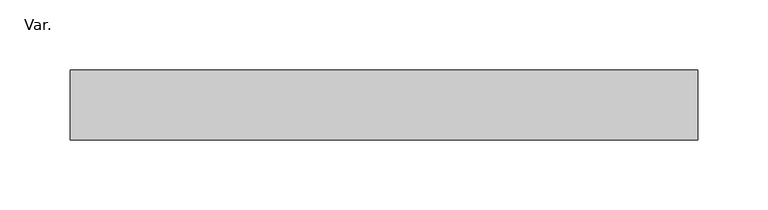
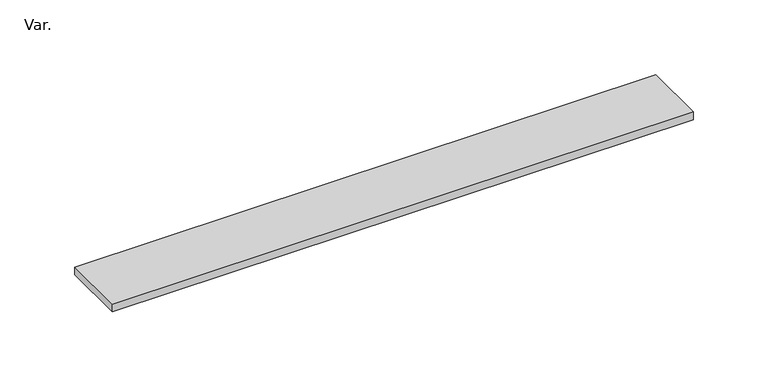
"""IFC4 building model written with IfcOpenShell, lengths in millimetres: pipe fitting geometry, AmancoWavin_ConexõesdeTubos_EsgotoZNãoUsarGelhaRaloLinear : Var.."""

from ifc_helpers import new_model, si_unit, origin, origin_with_axes, place, context, project, spatial, polyline, outline, extrude, source, transform, mapped, element, save


def var_c6f7f501(model_context):
    return source(origin(), model_context, "Body", "SweptSolid", [
        extrude(outline(polyline([(224.15, -25.0), (-224.15, -25.0), (-224.15, 25.0), (224.15, 25.0), (224.15, -25.0)])), origin_with_axes(), (0.0, 0.0, 1.0), 6.2),
    ])


if __name__ == "__main__":
    model = new_model("IFC4")
    model_context = context("Model", 3, world=origin())
    ifc_project = project(units=[si_unit("LENGTHUNIT", "METRE", prefix="MILLI")], contexts=[model_context])
    site = spatial("IfcSite", under=ifc_project)
    building = spatial("IfcBuilding", under=site)
    placement = place(None, origin())
    var_shape = var_c6f7f501(model_context)
    element("IfcPipeFitting", 1, ObjectType="AmancoWavin_ConexõesdeTubos_EsgotoZNãoUsarGelhaRaloLinear : Var.", at=placement, inside=building, context=model_context, shape_type="MappedRepresentation", body=[
        mapped(var_shape, transform((0.0, 0.0, 0.0), x_axis=(1.0, 0.0, 0.0), y_axis=(0.0, 1.0, 0.0), z_axis=(0.0, 0.0, 1.0))),
    ])
    save(model, "model.ifc")
